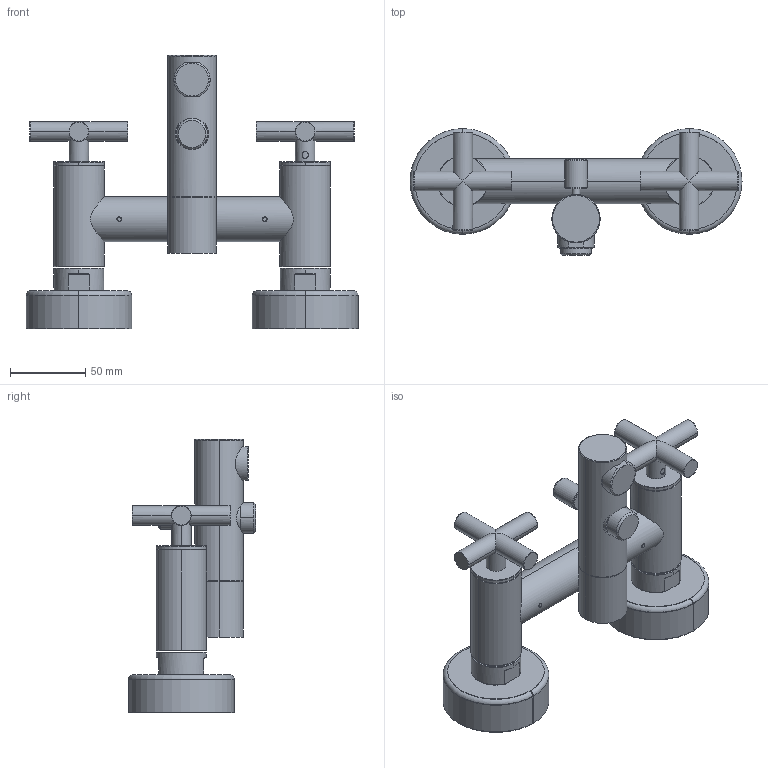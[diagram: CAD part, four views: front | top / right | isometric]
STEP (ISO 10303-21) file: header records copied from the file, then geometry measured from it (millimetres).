
FILE_DESCRIPTION((''),'2;1');
FILE_NAME('F5304_1_FILE_3D','2013-05-17T',('ivanv'),(''),'PRO/ENGINEER BY PARAMETRIC TECHNOLOGY CORPORATION, 2012130','PRO/ENGINEER BY PARAMETRIC TECHNOLOGY CORPORATION, 2012130','');
FILE_SCHEMA(('CONFIG_CONTROL_DESIGN'));
Length unit declared in the file: millimetre
Products named in the file (1): F5304_1_FILE_3D
Bounding box: 220 x 84.2 x 181 mm (x, y, z)
Volume: 320977.8 mm3; surface area: 124011.1 mm2
Topology: 3 solids, 6 shells, 382 faces, 883 edges, 539 vertices
Faces by surface type: cylinder 134, plane 132, torus 64, cone 52
Entity records: 15249 total; most frequent: CARTESIAN_POINT 6467, DIRECTION 1933, ORIENTED_EDGE 1762, EDGE_CURVE 881, AXIS2_PLACEMENT_3D 791, VERTEX_POINT 539, EDGE_LOOP 412, CIRCLE 408
